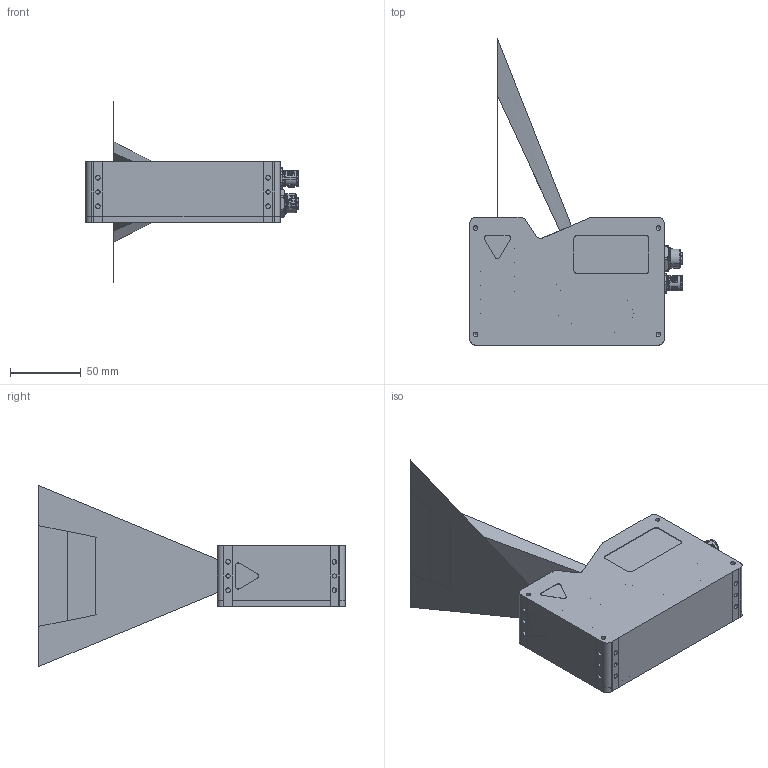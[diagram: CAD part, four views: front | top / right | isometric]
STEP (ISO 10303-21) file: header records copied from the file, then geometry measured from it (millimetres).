
FILE_DESCRIPTION(/* description */ (''),/* implementation_level */ '2;1');
FILE_NAME(/* name */ 'C6-S7-2040-CS-23-63-106-SX-1G-XXX-XX_Public.iam.stp',/* time_stamp */ '2025-06-12T06:24:03+02:00',/* author */ ('AT'),/* organization */ ('Automation Technology GmbH'),/* preprocessor_version */ 'ST-DEVELOPER v20',/* originating_system */ 'Autodesk Inventor 2024',/* authorisation */ '');
FILE_SCHEMA (('AUTOMOTIVE_DESIGN { 1 0 10303 214 3 1 1 }'));
Products named in the file (20): C6-S7-2040-CS-23-63-106-SX-1G-XXX-XX_Public; Screw GB/T 2672 M2,5 x 4; Screw GB/T 2672 M2,5 x 6; 202202010-028; 202202010-002; 202202010-009; 202202010-010; EO: 48-924; Glasscheibe33x1; C6-S7-2040-CS-23-63-106-SX-1G-XXX-XX_Strahlengang; 1292.6001; SACC-DSI-FS-8CON-L180_SCO SH_1553860-01; SACC-DSI-FS-8CON-L180_SCO SH_1553860_Stecker; SACC-DSI-FS-8CON-L180_SCO SH_1553860_Mutter; SACC-DSI-FS-8CON-L180_SCO SH_1553860_Kunststoffeinsatz; SACC-DSI-MS-17CON-M12 SCO SH_1437119-01; SACC-DSI-MS-17CON-M12 SCO SH_1437119_Stecker; SACC-DSI-MS-17CON-M12 SCO SH_1437119_Mutter; SACC-DSI-MS-17CON-M12 SCO SH_1437119_Pins; SACC-DSI-MS-17CON-M12 SCO SH_1437119_Kunststoffeinsatz
Assembly tree (36 placements, depth 3):
  C6-S7-2040-CS-23-63-106-SX-1G-XXX-XX_Public
    Screw GB/T 2672 M2,5 x 4  x8
    Screw GB/T 2672 M2,5 x 6  x7
    202202010-028
    202202010-002
    202202010-009
    202202010-010
    EO: 48-924
    Glasscheibe33x1
    C6-S7-2040-CS-23-63-106-SX-1G-XXX-XX_Strahlengang
    1292.6001  x5
    SACC-DSI-FS-8CON-L180_SCO SH_1553860-01
      SACC-DSI-FS-8CON-L180_SCO SH_1553860_Stecker
      SACC-DSI-FS-8CON-L180_SCO SH_1553860_Mutter
      SACC-DSI-FS-8CON-L180_SCO SH_1553860_Kunststoffeinsatz
    SACC-DSI-MS-17CON-M12 SCO SH_1437119-01
      SACC-DSI-MS-17CON-M12 SCO SH_1437119_Stecker
      SACC-DSI-MS-17CON-M12 SCO SH_1437119_Mutter
      SACC-DSI-MS-17CON-M12 SCO SH_1437119_Pins
      SACC-DSI-MS-17CON-M12 SCO SH_1437119_Kunststoffeinsatz
Bounding box: 149.9 x 216.1 x 127.87 mm (x, y, z)
Volume: 214255.1 mm3; surface area: 132682.4 mm2
Topology: 51 solids, 52 shells, 2268 faces, 5438 edges, 3385 vertices
Faces by surface type: cylinder 950, plane 880, bspline 181, cone 123, torus 85, sphere 49
Full cylindrical faces by diameter (mm): 0.217 x1, 0.6 x25, 0.63 x34, 0.9 x8, 1 x10, 1.1 x17, 1.2 x17, 1.5 x5, 1.567 x7, 1.6 x5, 2 x15, 2.013 x36, 2.208 x15, 2.4 x15, 2.5 x15, 2.6 x12, 2.8 x8, 3 x4, 3.242 x12, 5 x15, 5.5 x15, 7.7 x1, 8.25 x2, 8.3 x1, 8.7 x1, 10.5 x1, 10.7 x3, 10.917 x2, 12 x1, 12.2 x1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
Entity records: 86629 total; most frequent: CARTESIAN_POINT 45537, ORIENTED_EDGE 8184, DIRECTION 8085, EDGE_CURVE 4094, AXIS2_PLACEMENT_3D 2963, VERTEX_POINT 2702, LINE 2159, VECTOR 2159
